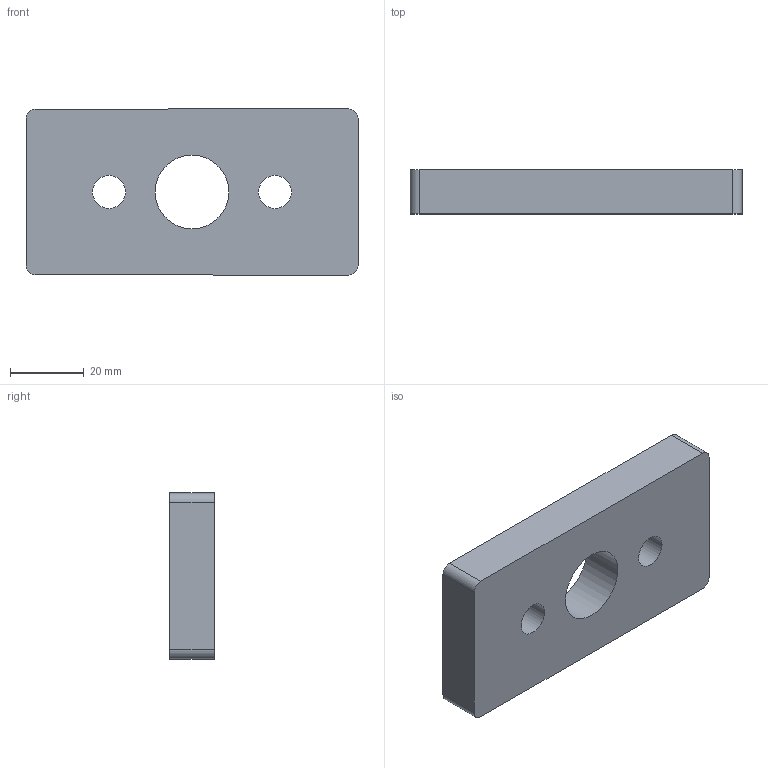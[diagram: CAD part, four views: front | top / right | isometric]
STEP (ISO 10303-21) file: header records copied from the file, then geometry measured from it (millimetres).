
FILE_DESCRIPTION(/* description */ ('STEP AP203'),/* implementation_level */ '2;1');
FILE_NAME(/* name */ 'C:\Users\Stefan.Nesic\Desktop\01010STEP\000Verifica\CORRETTI\MPT45-90M20.stp',/* time_stamp */ '2022-07-11T16:46:22+02:00',/* author */ (''),/* organization */ (''),/* preprocessor_version */ 'ST-DEVELOPER v18.1',/* originating_system */ 'Autodesk Inventor 2021',/* authorisation */ '');
FILE_SCHEMA (('AUTOMOTIVE_DESIGN { 1 0 10303 214 3 1 1 }'));
Length unit declared in the file: millimetre
Products named in the file (1): MPT45-90M20
Bounding box: 90 x 12 x 45 mm (x, y, z)
Volume: 42364.2 mm3; surface area: 11983.1 mm2
Topology: 1 solids, 1 shells, 17 faces, 39 edges, 26 vertices
Faces by surface type: cylinder 9, plane 8
Full cylindrical faces by diameter (mm): 9 x2, 13.5 x2, 20 x1
Entity records: 544 total; most frequent: DIRECTION 93, CARTESIAN_POINT 83, ORIENTED_EDGE 78, EDGE_CURVE 39, AXIS2_PLACEMENT_3D 36, VERTEX_POINT 26, EDGE_LOOP 25, LINE 21
